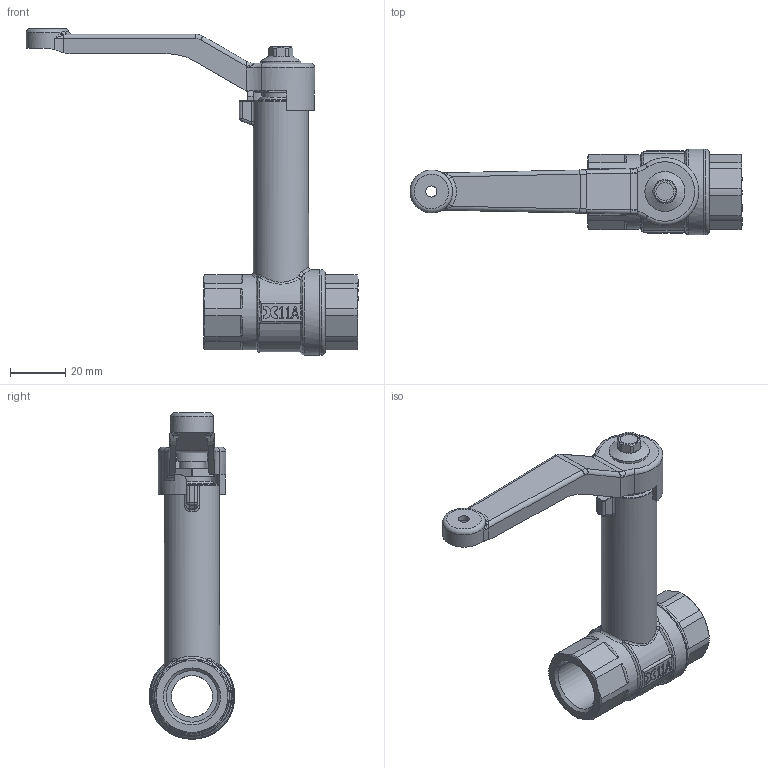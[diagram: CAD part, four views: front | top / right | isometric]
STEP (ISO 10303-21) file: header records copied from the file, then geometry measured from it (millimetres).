
FILE_DESCRIPTION(/* description */ ('Corpo prolunga femmina 1/2"'),/* implementation_level */ '2;1');
FILE_NAME(/* name */ '\\dcidrosfer01\user$\ut4\Desktop\Traber Ticom 13-03-15\Valv. sfera 012 art.109.stp',/* time_stamp */ '2015-03-13T13:50:45+01:00',/* author */ ('ut4'),/* organization */ (''),/* preprocessor_version */ 'ST-DEVELOPER v15.6',/* originating_system */ 'Autodesk Inventor 2015',/* authorisation */ '');
FILE_SCHEMA (('AUTOMOTIVE_DESIGN { 1 0 10303 214 3 1 1 }'));
Length unit declared in the file: millimetre
Products named in the file (13): Corpo prolunga femmina 012; Sede 012; sfera 012; Manicotto femmina 012; Perno prolunga Ø12; O-ring 8.73x1.78; Rondella ottone prolunga 14; Tubetto prolunga 14; anello stoppa 14; Premistoppa prolunga es.16; Leva 2; Vite rond. inc. 5x14 DACRO; Valv. sfera 012 art.109
Assembly tree (14 placements, depth 2):
  Valv. sfera 012 art.109
    Corpo prolunga femmina 012
    Sede 012  x2
    sfera 012
    Manicotto femmina 012
    Perno prolunga Ø12
    O-ring 8.73x1.78
    Rondella ottone prolunga 14  x2
    Tubetto prolunga 14
    anello stoppa 14
    Premistoppa prolunga es.16
    Leva 2
    Vite rond. inc. 5x14 DACRO
Bounding box: 120.15 x 31 x 118.15 mm (x, y, z)
Volume: 47804.6 mm3; surface area: 39193.1 mm2
Topology: 14 solids, 14 shells, 539 faces, 1327 edges, 841 vertices
Faces by surface type: plane 245, cylinder 129, bspline 86, cone 52, torus 22, sphere 5
Full cylindrical faces by diameter (mm): 3.6 x1, 4 x1, 4.134 x1, 5 x1, 6.5 x1, 8 x1, 8.4 x1, 9.3 x2, 9.6 x1, 9.8 x1, 10 x3, 10.5 x1, 11.2 x1, 12 x3, 12.2 x1, 13.7 x1, 14 x4, 14.2 x1, 14.5 x1, 14.7 x1, 15 x5, 16 x1, 18.631 x1, 18.65 x1, 20 x1, 22 x4, 25.5 x1, 27 x1, 27.2 x2, 31 x2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
Entity records: 17574 total; most frequent: CARTESIAN_POINT 5702, ORIENTED_EDGE 2414, DIRECTION 2231, EDGE_CURVE 1207, AXIS2_PLACEMENT_3D 832, VERTEX_POINT 811, EDGE_LOOP 654, LINE 567
